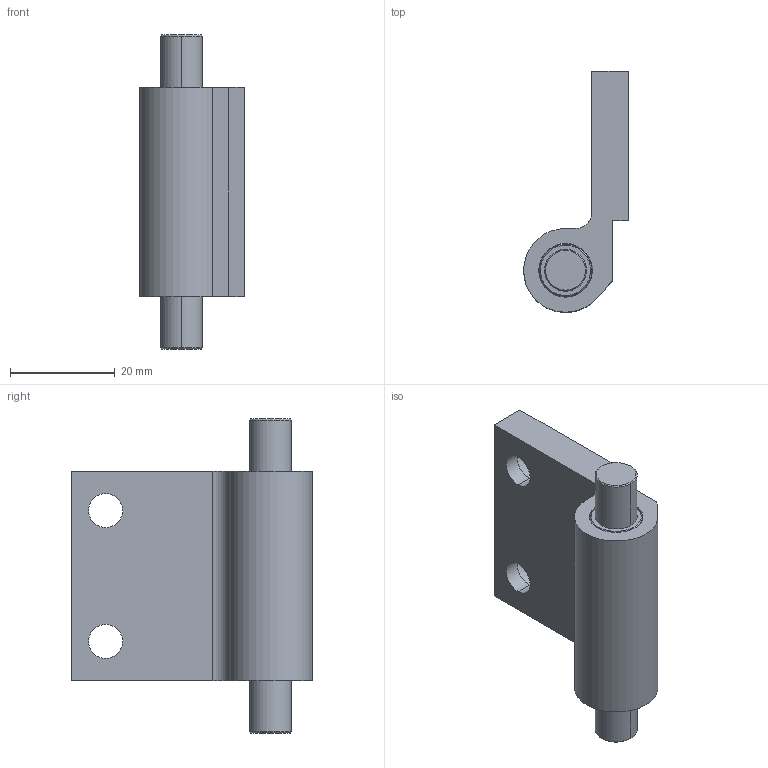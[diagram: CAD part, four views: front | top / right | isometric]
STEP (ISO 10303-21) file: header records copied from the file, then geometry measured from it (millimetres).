
FILE_DESCRIPTION (( 'STEP AP203' ), '1' );
FILE_NAME ('013.100.029.STEP', '2021-03-05T08:49:19', ( 'Localadmin' ), ( 'Microsoft' ), 'SwSTEP 2.0', 'SolidWorks 2018', '' );
FILE_SCHEMA (( 'CONFIG_CONTROL_DESIGN' ));
Length unit declared in the file: millimetre
Products named in the file (4): 013.100.029A; 013.100.029B; GRANI A PUNTA PIATTA UNI 5923_M3x14 UNI 5923; 013.100.029
Assembly tree (5 placements, depth 2):
  013.100.029
    013.100.029A
    013.100.029B  x2
    GRANI A PUNTA PIATTA UNI 5923_M3x14 UNI 5923  x2
Bounding box: 20 x 46 x 60 mm (x, y, z)
Volume: 15411.3 mm3; surface area: 8967.6 mm2
Topology: 5 solids, 5 shells, 93 faces, 217 edges, 136 vertices
Faces by surface type: plane 39, cylinder 34, cone 20
Entity records: 2535 total; most frequent: CARTESIAN_POINT 528, DIRECTION 337, ORIENTED_EDGE 310, EDGE_CURVE 155, AXIS2_PLACEMENT_3D 123, VERTEX_POINT 98, VECTOR 91, LINE 91
